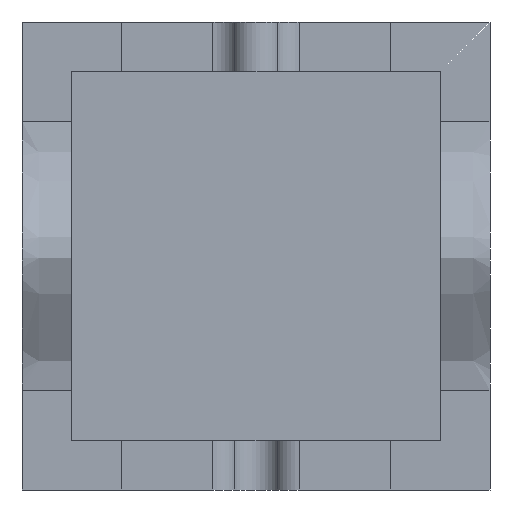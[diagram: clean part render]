
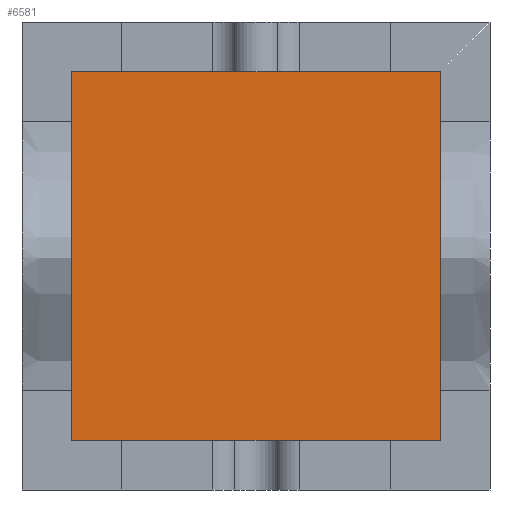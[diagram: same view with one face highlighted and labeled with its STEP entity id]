
A CAD part, front view. The second image highlights one B-rep face of the part: STEP entity #6581.
In plain terms, the highlighted planar face has unit normal (0, -1, 0).
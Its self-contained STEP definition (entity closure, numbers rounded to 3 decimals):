
#6455=CARTESIAN_POINT('Vertex',(-20.,-30.,-20.)) ;
#6460=CARTESIAN_POINT('Line Origine',(-20.,-30.,54.)) ;
#6464=CARTESIAN_POINT('Vertex',(-20.,-30.,128.)) ;
#6491=CARTESIAN_POINT('Line Origine',(54.,-30.,128.)) ;
#6495=CARTESIAN_POINT('Vertex',(128.,-30.,128.)) ;
#6522=CARTESIAN_POINT('Line Origine',(128.,-30.,54.)) ;
#6526=CARTESIAN_POINT('Vertex',(128.,-30.,-20.)) ;
#6553=CARTESIAN_POINT('Line Origine',(54.,-30.,-20.)) ;
#6570=CARTESIAN_POINT('Axis2P3D Location',(0.,-30.,0.)) ;
#6461=DIRECTION('Vector Direction',(0.,0.,-1.)) ;
#6492=DIRECTION('Vector Direction',(1.,0.,0.)) ;
#6523=DIRECTION('Vector Direction',(0.,0.,1.)) ;
#6554=DIRECTION('Vector Direction',(-1.,0.,0.)) ;
#6571=DIRECTION('Axis2P3D Direction',(0.,1.,0.)) ;
#6572=DIRECTION('Axis2P3D XDirection',(-1.,0.,0.)) ;
#6573=AXIS2_PLACEMENT_3D('Plane Axis2P3D',#6570,#6571,#6572) ;
#6576=ORIENTED_EDGE('',*,*,#6557,.F.) ;
#6577=ORIENTED_EDGE('',*,*,#6528,.F.) ;
#6578=ORIENTED_EDGE('',*,*,#6497,.F.) ;
#6579=ORIENTED_EDGE('',*,*,#6466,.F.) ;
#6462=VECTOR('Line Direction',#6461,1.) ;
#6493=VECTOR('Line Direction',#6492,1.) ;
#6524=VECTOR('Line Direction',#6523,1.) ;
#6555=VECTOR('Line Direction',#6554,1.) ;
#6581=ADVANCED_FACE('Cavity-molde',(#6580),#6574,.F.) ;
#6466=EDGE_CURVE('',#6456,#6465,#6463,.F.) ;
#6497=EDGE_CURVE('',#6465,#6496,#6494,.T.) ;
#6528=EDGE_CURVE('',#6496,#6527,#6525,.F.) ;
#6557=EDGE_CURVE('',#6527,#6456,#6556,.T.) ;
#6575=EDGE_LOOP('',(#6576,#6577,#6578,#6579)) ;
#6580=FACE_OUTER_BOUND('',#6575,.T.) ;
#6463=LINE('Line',#6460,#6462) ;
#6494=LINE('Line',#6491,#6493) ;
#6525=LINE('Line',#6522,#6524) ;
#6556=LINE('Line',#6553,#6555) ;
#6574=PLANE('',#6573) ;
#6456=VERTEX_POINT('',#6455) ;
#6465=VERTEX_POINT('',#6464) ;
#6496=VERTEX_POINT('',#6495) ;
#6527=VERTEX_POINT('',#6526) ;
